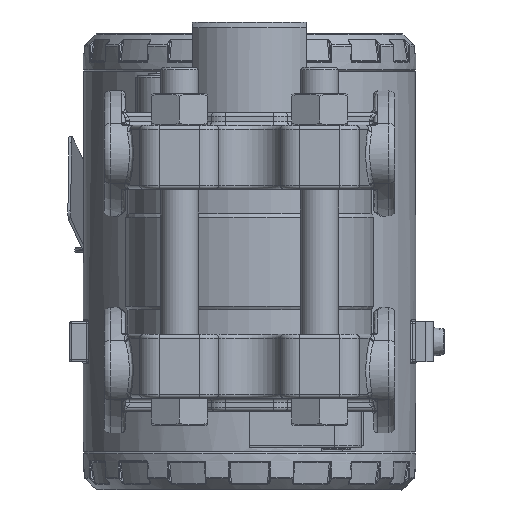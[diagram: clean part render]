
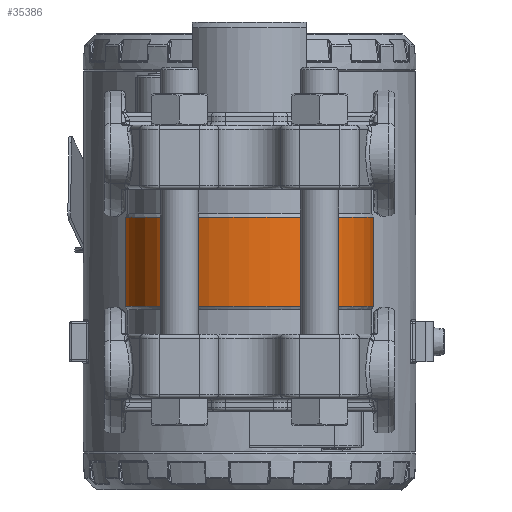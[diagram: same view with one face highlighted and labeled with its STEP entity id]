
A CAD part, left-side view. The second image highlights one B-rep face of the part: STEP entity #35386.
In plain terms, the highlighted cylindrical face has radius 31 mm (diameter 62 mm), a partial arc.
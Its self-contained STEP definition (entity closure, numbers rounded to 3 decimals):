
#1661=CYLINDRICAL_SURFACE('',#38250,31.);
#2713=FACE_OUTER_BOUND('',#5084,.T.);
#5084=EDGE_LOOP('',(#23651,#23652,#23653,#23654,#23655,#23656,#23657,#23658,
#23659,#23660));
#7563=LINE('',#54013,#9001);
#7564=LINE('',#54026,#9002);
#9001=VECTOR('',#43005,10.);
#9002=VECTOR('',#43006,10.);
#10436=CIRCLE('',#38230,31.);
#10439=CIRCLE('',#38233,31.);
#10445=CIRCLE('',#38243,31.);
#10446=CIRCLE('',#38244,31.);
#13205=B_SPLINE_CURVE_WITH_KNOTS('',3,(#53989,#53990,#53991,#53992,#53993),
 .UNSPECIFIED.,.F.,.F.,(4,1,4),(0.57,0.913,1.279),
 .UNSPECIFIED.);
#13207=B_SPLINE_CURVE_WITH_KNOTS('',3,(#54006,#54007,#54008,#54009,#54010,
#54011),.UNSPECIFIED.,.F.,.F.,(4,1,1,4),(0.,0.274,0.548,
0.708),.UNSPECIFIED.);
#13208=B_SPLINE_CURVE_WITH_KNOTS('',3,(#54014,#54015,#54016,#54017,#54018),
 .UNSPECIFIED.,.F.,.F.,(4,1,4),(0.57,0.913,1.279),
 .UNSPECIFIED.);
#13209=B_SPLINE_CURVE_WITH_KNOTS('',3,(#54020,#54021,#54022,#54023,#54024,
#54025),.UNSPECIFIED.,.F.,.F.,(4,1,1,4),(0.,0.274,
0.548,0.708),.UNSPECIFIED.);
#14518=VERTEX_POINT('',#53840);
#14520=VERTEX_POINT('',#53853);
#14521=VERTEX_POINT('',#53864);
#14533=VERTEX_POINT('',#53927);
#14534=VERTEX_POINT('',#53929);
#14535=VERTEX_POINT('',#53941);
#14537=VERTEX_POINT('',#53988);
#14540=VERTEX_POINT('',#54005);
#14541=VERTEX_POINT('',#54012);
#14542=VERTEX_POINT('',#54019);
#17933=EDGE_CURVE('',#14521,#14520,#10436,.T.);
#17937=EDGE_CURVE('',#14518,#14521,#10439,.T.);
#17949=EDGE_CURVE('',#14534,#14533,#10445,.T.);
#17952=EDGE_CURVE('',#14533,#14535,#10446,.T.);
#17956=EDGE_CURVE('',#14518,#14537,#13205,.T.);
#17960=EDGE_CURVE('',#14540,#14520,#13207,.T.);
#17961=EDGE_CURVE('',#14541,#14540,#7563,.T.);
#17962=EDGE_CURVE('',#14534,#14541,#13208,.T.);
#17963=EDGE_CURVE('',#14542,#14535,#13209,.T.);
#17964=EDGE_CURVE('',#14537,#14542,#7564,.T.);
#23651=ORIENTED_EDGE('',*,*,#17937,.T.);
#23652=ORIENTED_EDGE('',*,*,#17933,.T.);
#23653=ORIENTED_EDGE('',*,*,#17960,.F.);
#23654=ORIENTED_EDGE('',*,*,#17961,.F.);
#23655=ORIENTED_EDGE('',*,*,#17962,.F.);
#23656=ORIENTED_EDGE('',*,*,#17949,.T.);
#23657=ORIENTED_EDGE('',*,*,#17952,.T.);
#23658=ORIENTED_EDGE('',*,*,#17963,.F.);
#23659=ORIENTED_EDGE('',*,*,#17964,.F.);
#23660=ORIENTED_EDGE('',*,*,#17956,.F.);
#35386=ADVANCED_FACE('',(#2713),#1661,.T.);
#38230=AXIS2_PLACEMENT_3D('',#53865,#42959,#42960);
#38233=AXIS2_PLACEMENT_3D('',#53871,#42966,#42967);
#38243=AXIS2_PLACEMENT_3D('',#53930,#42988,#42989);
#38244=AXIS2_PLACEMENT_3D('',#53952,#42990,#42991);
#38250=AXIS2_PLACEMENT_3D('',#54004,#43003,#43004);
#42959=DIRECTION('center_axis',(0.,0.,1.));
#42960=DIRECTION('ref_axis',(-1.,0.,0.));
#42966=DIRECTION('center_axis',(0.,0.,1.));
#42967=DIRECTION('ref_axis',(-1.,0.,0.));
#42988=DIRECTION('center_axis',(0.,0.,-1.));
#42989=DIRECTION('ref_axis',(-1.,0.,0.));
#42990=DIRECTION('center_axis',(0.,0.,-1.));
#42991=DIRECTION('ref_axis',(-1.,0.,0.));
#43003=DIRECTION('center_axis',(0.,0.,1.));
#43004=DIRECTION('ref_axis',(-1.,0.,0.));
#43005=DIRECTION('',(0.,0.,-1.));
#43006=DIRECTION('',(0.,0.,1.));
#53840=CARTESIAN_POINT('',(29.591,9.241,-11.134));
#53853=CARTESIAN_POINT('',(29.591,-9.241,-11.134));
#53864=CARTESIAN_POINT('',(-31.,0.,-11.134));
#53865=CARTESIAN_POINT('Origin',(0.,0.,-11.134));
#53871=CARTESIAN_POINT('Origin',(0.,0.,-11.134));
#53927=CARTESIAN_POINT('',(-31.,0.,11.134));
#53929=CARTESIAN_POINT('',(29.591,-9.241,11.134));
#53930=CARTESIAN_POINT('Origin',(0.,0.,11.134));
#53941=CARTESIAN_POINT('',(29.591,9.241,11.134));
#53952=CARTESIAN_POINT('Origin',(0.,0.,11.134));
#53988=CARTESIAN_POINT('',(28.645,11.853,-5.));
#53989=CARTESIAN_POINT('Ctrl Pts',(29.591,9.241,-11.133));
#53990=CARTESIAN_POINT('Ctrl Pts',(29.348,10.019,-10.419));
#53991=CARTESIAN_POINT('Ctrl Pts',(28.86,11.344,-8.57));
#53992=CARTESIAN_POINT('Ctrl Pts',(28.645,11.853,-6.218));
#53993=CARTESIAN_POINT('Ctrl Pts',(28.645,11.853,-5.));
#54004=CARTESIAN_POINT('Origin',(0.,0.,0.));
#54005=CARTESIAN_POINT('',(28.645,-11.853,-5.));
#54006=CARTESIAN_POINT('Ctrl Pts',(28.645,-11.853,-5.));
#54007=CARTESIAN_POINT('Ctrl Pts',(28.645,-11.853,-5.913));
#54008=CARTESIAN_POINT('Ctrl Pts',(28.767,-11.563,-7.738));
#54009=CARTESIAN_POINT('Ctrl Pts',(29.174,-10.51,-9.79));
#54010=CARTESIAN_POINT('Ctrl Pts',(29.477,-9.605,-10.8));
#54011=CARTESIAN_POINT('Ctrl Pts',(29.59,-9.241,-11.134));
#54012=CARTESIAN_POINT('',(28.645,-11.853,5.));
#54013=CARTESIAN_POINT('',(28.645,-11.853,0.));
#54014=CARTESIAN_POINT('Ctrl Pts',(29.591,-9.241,11.133));
#54015=CARTESIAN_POINT('Ctrl Pts',(29.348,-10.019,10.419));
#54016=CARTESIAN_POINT('Ctrl Pts',(28.86,-11.344,8.57));
#54017=CARTESIAN_POINT('Ctrl Pts',(28.645,-11.853,6.218));
#54018=CARTESIAN_POINT('Ctrl Pts',(28.645,-11.853,5.));
#54019=CARTESIAN_POINT('',(28.645,11.853,5.));
#54020=CARTESIAN_POINT('Ctrl Pts',(28.645,11.853,5.));
#54021=CARTESIAN_POINT('Ctrl Pts',(28.645,11.853,5.913));
#54022=CARTESIAN_POINT('Ctrl Pts',(28.767,11.563,7.738));
#54023=CARTESIAN_POINT('Ctrl Pts',(29.174,10.51,9.79));
#54024=CARTESIAN_POINT('Ctrl Pts',(29.477,9.605,10.8));
#54025=CARTESIAN_POINT('Ctrl Pts',(29.59,9.241,11.134));
#54026=CARTESIAN_POINT('',(28.645,11.853,0.));
